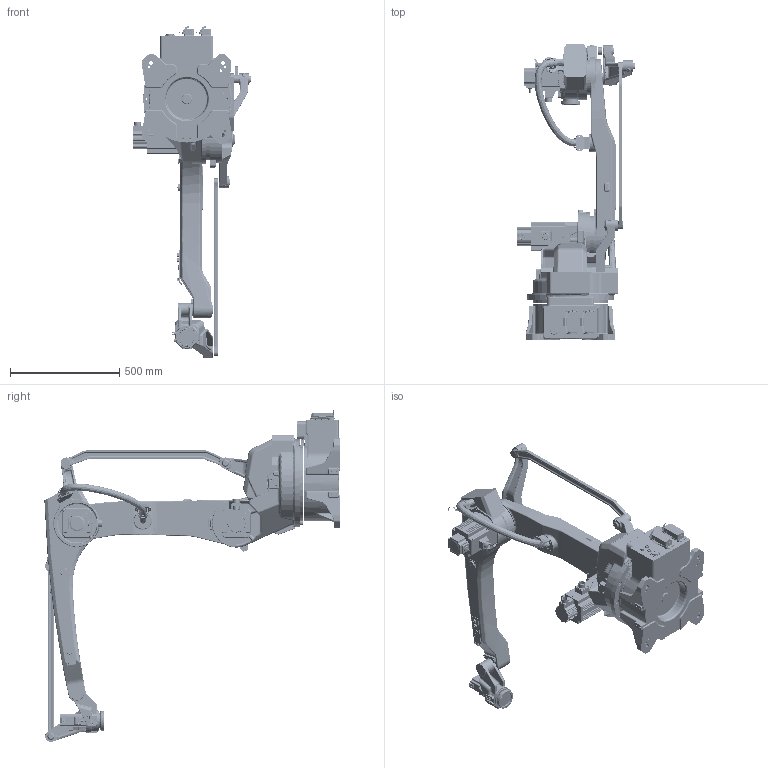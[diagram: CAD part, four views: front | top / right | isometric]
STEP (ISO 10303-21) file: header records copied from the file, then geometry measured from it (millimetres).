
FILE_DESCRIPTION((''),'2;1');
FILE_NAME('RB30-1_ASM','2020-12-26T10:22:32',('Administrator'),(''),'CREO PARAMETRIC BY PTC INC, 2018260','CREO PARAMETRIC BY PTC INC, 2018260','');
FILE_SCHEMA(('CONFIG_CONTROL_DESIGN','SHAPE_APPEARANCE_LAYERS_GROUPS'));
Products named in the file (11): RB30-1_BASE; RB30-1_JOINT1; RB30-1_JOINT2; RB30-1_JOINT3; RB30-1_JOINT4; RB30-1_WRIST; RB30-1_VERTICAL-ROD; RB30-1_ANGLE-BRACKET; RB30-1_HORIZONTAL-ROD; RB30-1_CABLE; RB30-1_ASM
Assembly tree (10 placements, depth 2):
  RB30-1_ASM
    RB30-1_BASE
    RB30-1_JOINT1
    RB30-1_JOINT2
    RB30-1_JOINT3
    RB30-1_JOINT4
    RB30-1_WRIST
    RB30-1_VERTICAL-ROD
    RB30-1_ANGLE-BRACKET
    RB30-1_HORIZONTAL-ROD
    RB30-1_CABLE
Bounding box: 539 x 1353.5 x 1521.78 mm (x, y, z)
Volume: 81176119.1 mm3; surface area: 3666353.9 mm2
Topology: 10 solids, 45 shells, 8817 faces, 22126 edges, 13573 vertices
Faces by surface type: cylinder 3450, plane 2392, torus 1209, bspline 1144, cone 521, sphere 101
Entity records: 315324 total; most frequent: CARTESIAN_POINT 107895, DIRECTION 43878, ORIENTED_EDGE 43789, EDGE_CURVE 21914, AXIS2_PLACEMENT_3D 17374, VERTEX_POINT 13573, CIRCLE 9676, EDGE_LOOP 9328
